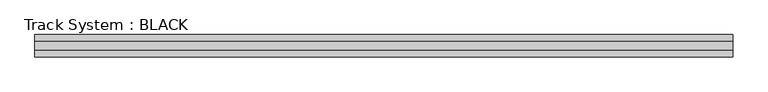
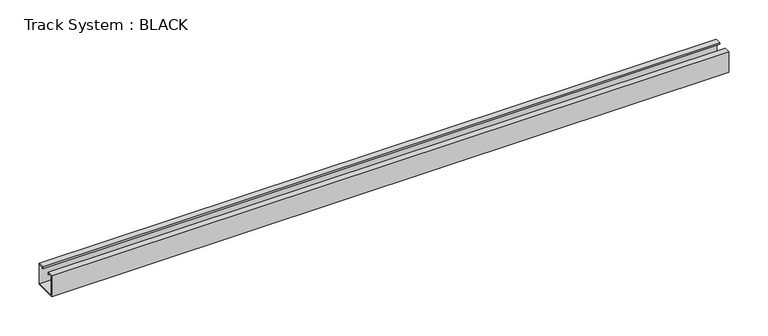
"""IFC4 building model written with IfcOpenShell, lengths in millimetres: proxy geometry, Track System : BLACK."""

from ifc_helpers import new_model, si_unit, frame, origin, place, context, project, spatial, polyline, outline, extrude, source, transform, mapped, element, save


def track_system_black_2c894177(model_context):
    return source(origin(), model_context, "Body", "SweptSolid", [
        extrude(outline(polyline([(-7.0, 32.5), (-7.0, 29.5366355), (-8.0, 29.5366355), (-8.0, 31.5), (-14.9857524, 31.5), (-14.9857524, 1.0), (15.0, 1.0), (15.0, 31.5), (8.0, 31.5), (8.0, 29.5366355), (7.0, 29.5366355), (7.0, 32.5), (16.0, 32.5), (16.0, 0.0), (-15.9857524, 0.0), (-15.9857524, 32.5), (-7.0, 32.5)])), frame((-500.0, 0.0, 0.0), z_axis=(1.0, 0.0, 0.0), x_axis=(0.0, 1.0, 0.0)), (0.0, 0.0, 1.0), 1000.0),
    ])


if __name__ == "__main__":
    model = new_model("IFC4")
    model_context = context("Model", 3, world=origin())
    ifc_project = project(units=[si_unit("LENGTHUNIT", "METRE", prefix="MILLI")], contexts=[model_context])
    site = spatial("IfcSite", under=ifc_project)
    building = spatial("IfcBuilding", under=site)
    placement = place(None, origin())
    track_system_black_shape = track_system_black_2c894177(model_context)
    element("IfcBuildingElementProxy", 1, Name="Track System : BLACK", ObjectType="Track System : BLACK", at=placement, inside=building, context=model_context, shape_type="MappedRepresentation", body=[
        mapped(track_system_black_shape, transform((0.0, 0.0, 0.0), x_axis=(1.0, 0.0, 0.0), y_axis=(0.0, 1.0, 0.0), z_axis=(0.0, 0.0, 1.0))),
    ])
    save(model, "model.ifc")
